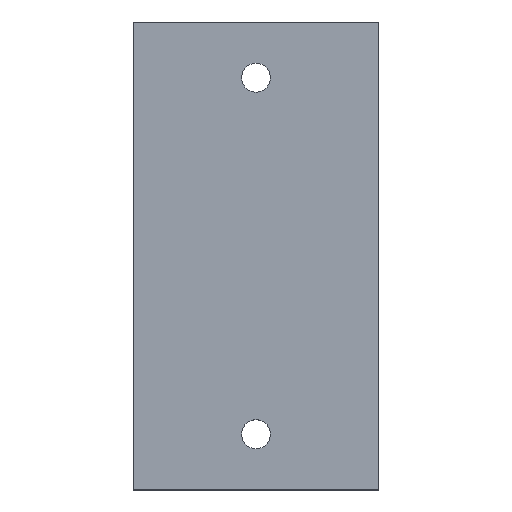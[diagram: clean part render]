
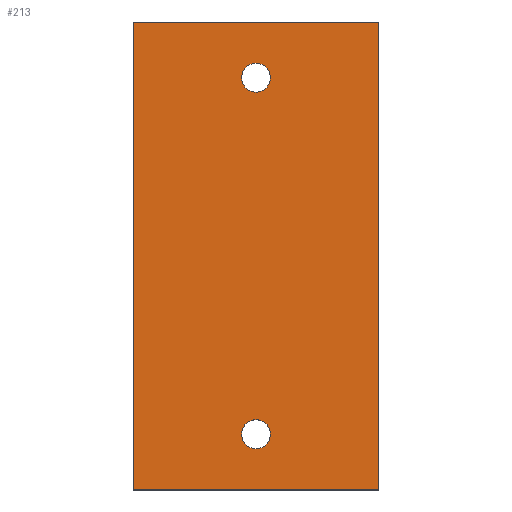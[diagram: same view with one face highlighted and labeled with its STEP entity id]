
A CAD part, top view. The second image highlights one B-rep face of the part: STEP entity #213.
In plain terms, the highlighted planar face has unit normal (0, 0, 1).
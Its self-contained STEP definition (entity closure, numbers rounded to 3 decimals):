
#24 = VERTEX_POINT('',#25);
#25 = CARTESIAN_POINT('',(1210.,-110.,988.));
#32 = PLANE('',#33);
#33 = AXIS2_PLACEMENT_3D('',#34,#35,#36);
#34 = CARTESIAN_POINT('',(1210.,-110.,964.));
#35 = DIRECTION('',(1.,0.,-0.));
#36 = DIRECTION('',(0.,0.,1.));
#44 = PLANE('',#45);
#45 = AXIS2_PLACEMENT_3D('',#46,#47,#48);
#46 = CARTESIAN_POINT('',(1210.,-110.,964.));
#47 = DIRECTION('',(-0.,1.,0.));
#48 = DIRECTION('',(0.,0.,1.));
#85 = VERTEX_POINT('',#86);
#86 = CARTESIAN_POINT('',(1210.,310.,988.));
#100 = PLANE('',#101);
#101 = AXIS2_PLACEMENT_3D('',#102,#103,#104);
#102 = CARTESIAN_POINT('',(1210.,310.,964.));
#103 = DIRECTION('',(-0.,1.,0.));
#104 = DIRECTION('',(0.,0.,1.));
#112 = EDGE_CURVE('',#24,#85,#113,.T.);
#113 = SURFACE_CURVE('',#114,(#118,#125),.PCURVE_S1.);
#114 = LINE('',#115,#116);
#115 = CARTESIAN_POINT('',(1210.,-110.,988.));
#116 = VECTOR('',#117,1.);
#117 = DIRECTION('',(-0.,1.,0.));
#118 = PCURVE('',#32,#119);
#119 = DEFINITIONAL_REPRESENTATION('',(#120),#124);
#120 = LINE('',#121,#122);
#121 = CARTESIAN_POINT('',(24.,0.));
#122 = VECTOR('',#123,1.);
#123 = DIRECTION('',(0.,-1.));
#124 = ( GEOMETRIC_REPRESENTATION_CONTEXT(2) 
PARAMETRIC_REPRESENTATION_CONTEXT() REPRESENTATION_CONTEXT('2D SPACE',''
  ) );
#125 = PCURVE('',#126,#131);
#126 = PLANE('',#127);
#127 = AXIS2_PLACEMENT_3D('',#128,#129,#130);
#128 = CARTESIAN_POINT('',(1210.,-110.,988.));
#129 = DIRECTION('',(0.,0.,1.));
#130 = DIRECTION('',(1.,0.,-0.));
#131 = DEFINITIONAL_REPRESENTATION('',(#132),#136);
#132 = LINE('',#133,#134);
#133 = CARTESIAN_POINT('',(0.,0.));
#134 = VECTOR('',#135,1.);
#135 = DIRECTION('',(0.,1.));
#136 = ( GEOMETRIC_REPRESENTATION_CONTEXT(2) 
PARAMETRIC_REPRESENTATION_CONTEXT() REPRESENTATION_CONTEXT('2D SPACE',''
  ) );
#165 = EDGE_CURVE('',#24,#166,#168,.T.);
#166 = VERTEX_POINT('',#167);
#167 = CARTESIAN_POINT('',(1430.,-110.,988.));
#168 = SURFACE_CURVE('',#169,(#173,#180),.PCURVE_S1.);
#169 = LINE('',#170,#171);
#170 = CARTESIAN_POINT('',(1210.,-110.,988.));
#171 = VECTOR('',#172,1.);
#172 = DIRECTION('',(1.,0.,-0.));
#173 = PCURVE('',#44,#174);
#174 = DEFINITIONAL_REPRESENTATION('',(#175),#179);
#175 = LINE('',#176,#177);
#176 = CARTESIAN_POINT('',(24.,0.));
#177 = VECTOR('',#178,1.);
#178 = DIRECTION('',(0.,1.));
#179 = ( GEOMETRIC_REPRESENTATION_CONTEXT(2) 
PARAMETRIC_REPRESENTATION_CONTEXT() REPRESENTATION_CONTEXT('2D SPACE',''
  ) );
#180 = PCURVE('',#126,#181);
#181 = DEFINITIONAL_REPRESENTATION('',(#182),#186);
#182 = LINE('',#183,#184);
#183 = CARTESIAN_POINT('',(0.,0.));
#184 = VECTOR('',#185,1.);
#185 = DIRECTION('',(1.,0.));
#186 = ( GEOMETRIC_REPRESENTATION_CONTEXT(2) 
PARAMETRIC_REPRESENTATION_CONTEXT() REPRESENTATION_CONTEXT('2D SPACE',''
  ) );
#202 = PLANE('',#203);
#203 = AXIS2_PLACEMENT_3D('',#204,#205,#206);
#204 = CARTESIAN_POINT('',(1430.,-110.,964.));
#205 = DIRECTION('',(1.,0.,-0.));
#206 = DIRECTION('',(0.,0.,1.));
#213 = ADVANCED_FACE('',(#214,#262,#293),#126,.T.);
#214 = FACE_BOUND('',#215,.T.);
#215 = EDGE_LOOP('',(#216,#217,#218,#241));
#216 = ORIENTED_EDGE('',*,*,#112,.F.);
#217 = ORIENTED_EDGE('',*,*,#165,.T.);
#218 = ORIENTED_EDGE('',*,*,#219,.T.);
#219 = EDGE_CURVE('',#166,#220,#222,.T.);
#220 = VERTEX_POINT('',#221);
#221 = CARTESIAN_POINT('',(1430.,310.,988.));
#222 = SURFACE_CURVE('',#223,(#227,#234),.PCURVE_S1.);
#223 = LINE('',#224,#225);
#224 = CARTESIAN_POINT('',(1430.,-110.,988.));
#225 = VECTOR('',#226,1.);
#226 = DIRECTION('',(-0.,1.,0.));
#227 = PCURVE('',#126,#228);
#228 = DEFINITIONAL_REPRESENTATION('',(#229),#233);
#229 = LINE('',#230,#231);
#230 = CARTESIAN_POINT('',(220.,0.));
#231 = VECTOR('',#232,1.);
#232 = DIRECTION('',(0.,1.));
#233 = ( GEOMETRIC_REPRESENTATION_CONTEXT(2) 
PARAMETRIC_REPRESENTATION_CONTEXT() REPRESENTATION_CONTEXT('2D SPACE',''
  ) );
#234 = PCURVE('',#202,#235);
#235 = DEFINITIONAL_REPRESENTATION('',(#236),#240);
#236 = LINE('',#237,#238);
#237 = CARTESIAN_POINT('',(24.,0.));
#238 = VECTOR('',#239,1.);
#239 = DIRECTION('',(0.,-1.));
#240 = ( GEOMETRIC_REPRESENTATION_CONTEXT(2) 
PARAMETRIC_REPRESENTATION_CONTEXT() REPRESENTATION_CONTEXT('2D SPACE',''
  ) );
#241 = ORIENTED_EDGE('',*,*,#242,.F.);
#242 = EDGE_CURVE('',#85,#220,#243,.T.);
#243 = SURFACE_CURVE('',#244,(#248,#255),.PCURVE_S1.);
#244 = LINE('',#245,#246);
#245 = CARTESIAN_POINT('',(1210.,310.,988.));
#246 = VECTOR('',#247,1.);
#247 = DIRECTION('',(1.,0.,-0.));
#248 = PCURVE('',#126,#249);
#249 = DEFINITIONAL_REPRESENTATION('',(#250),#254);
#250 = LINE('',#251,#252);
#251 = CARTESIAN_POINT('',(0.,420.));
#252 = VECTOR('',#253,1.);
#253 = DIRECTION('',(1.,0.));
#254 = ( GEOMETRIC_REPRESENTATION_CONTEXT(2) 
PARAMETRIC_REPRESENTATION_CONTEXT() REPRESENTATION_CONTEXT('2D SPACE',''
  ) );
#255 = PCURVE('',#100,#256);
#256 = DEFINITIONAL_REPRESENTATION('',(#257),#261);
#257 = LINE('',#258,#259);
#258 = CARTESIAN_POINT('',(24.,0.));
#259 = VECTOR('',#260,1.);
#260 = DIRECTION('',(0.,1.));
#261 = ( GEOMETRIC_REPRESENTATION_CONTEXT(2) 
PARAMETRIC_REPRESENTATION_CONTEXT() REPRESENTATION_CONTEXT('2D SPACE',''
  ) );
#262 = FACE_BOUND('',#263,.T.);
#263 = EDGE_LOOP('',(#264));
#264 = ORIENTED_EDGE('',*,*,#265,.F.);
#265 = EDGE_CURVE('',#266,#266,#268,.T.);
#266 = VERTEX_POINT('',#267);
#267 = CARTESIAN_POINT('',(1333.,-60.,988.));
#268 = SURFACE_CURVE('',#269,(#274,#281),.PCURVE_S1.);
#269 = CIRCLE('',#270,13.);
#270 = AXIS2_PLACEMENT_3D('',#271,#272,#273);
#271 = CARTESIAN_POINT('',(1320.,-60.,988.));
#272 = DIRECTION('',(0.,0.,1.));
#273 = DIRECTION('',(1.,0.,-0.));
#274 = PCURVE('',#126,#275);
#275 = DEFINITIONAL_REPRESENTATION('',(#276),#280);
#276 = CIRCLE('',#277,13.);
#277 = AXIS2_PLACEMENT_2D('',#278,#279);
#278 = CARTESIAN_POINT('',(110.,50.));
#279 = DIRECTION('',(1.,0.));
#280 = ( GEOMETRIC_REPRESENTATION_CONTEXT(2) 
PARAMETRIC_REPRESENTATION_CONTEXT() REPRESENTATION_CONTEXT('2D SPACE',''
  ) );
#281 = PCURVE('',#282,#287);
#282 = CYLINDRICAL_SURFACE('',#283,13.);
#283 = AXIS2_PLACEMENT_3D('',#284,#285,#286);
#284 = CARTESIAN_POINT('',(1320.,-60.,962.));
#285 = DIRECTION('',(0.,0.,1.));
#286 = DIRECTION('',(1.,0.,-0.));
#287 = DEFINITIONAL_REPRESENTATION('',(#288),#292);
#288 = LINE('',#289,#290);
#289 = CARTESIAN_POINT('',(0.,26.));
#290 = VECTOR('',#291,1.);
#291 = DIRECTION('',(1.,0.));
#292 = ( GEOMETRIC_REPRESENTATION_CONTEXT(2) 
PARAMETRIC_REPRESENTATION_CONTEXT() REPRESENTATION_CONTEXT('2D SPACE',''
  ) );
#293 = FACE_BOUND('',#294,.T.);
#294 = EDGE_LOOP('',(#295));
#295 = ORIENTED_EDGE('',*,*,#296,.F.);
#296 = EDGE_CURVE('',#297,#297,#299,.T.);
#297 = VERTEX_POINT('',#298);
#298 = CARTESIAN_POINT('',(1333.,260.,988.));
#299 = SURFACE_CURVE('',#300,(#305,#312),.PCURVE_S1.);
#300 = CIRCLE('',#301,13.);
#301 = AXIS2_PLACEMENT_3D('',#302,#303,#304);
#302 = CARTESIAN_POINT('',(1320.,260.,988.));
#303 = DIRECTION('',(0.,0.,1.));
#304 = DIRECTION('',(1.,0.,-0.));
#305 = PCURVE('',#126,#306);
#306 = DEFINITIONAL_REPRESENTATION('',(#307),#311);
#307 = CIRCLE('',#308,13.);
#308 = AXIS2_PLACEMENT_2D('',#309,#310);
#309 = CARTESIAN_POINT('',(110.,370.));
#310 = DIRECTION('',(1.,0.));
#311 = ( GEOMETRIC_REPRESENTATION_CONTEXT(2) 
PARAMETRIC_REPRESENTATION_CONTEXT() REPRESENTATION_CONTEXT('2D SPACE',''
  ) );
#312 = PCURVE('',#313,#318);
#313 = CYLINDRICAL_SURFACE('',#314,13.);
#314 = AXIS2_PLACEMENT_3D('',#315,#316,#317);
#315 = CARTESIAN_POINT('',(1320.,260.,962.));
#316 = DIRECTION('',(0.,0.,1.));
#317 = DIRECTION('',(1.,0.,-0.));
#318 = DEFINITIONAL_REPRESENTATION('',(#319),#323);
#319 = LINE('',#320,#321);
#320 = CARTESIAN_POINT('',(0.,26.));
#321 = VECTOR('',#322,1.);
#322 = DIRECTION('',(1.,0.));
#323 = ( GEOMETRIC_REPRESENTATION_CONTEXT(2) 
PARAMETRIC_REPRESENTATION_CONTEXT() REPRESENTATION_CONTEXT('2D SPACE',''
  ) );
